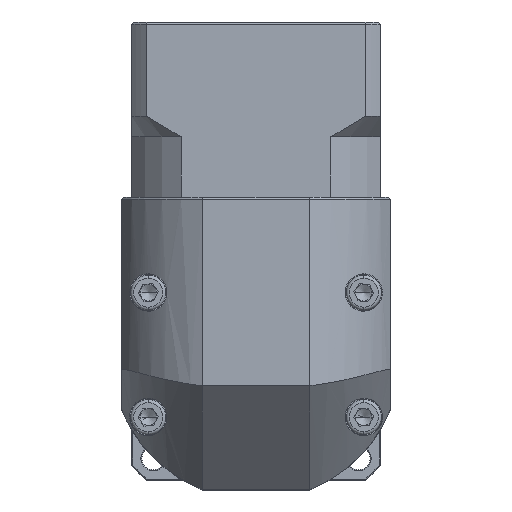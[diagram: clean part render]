
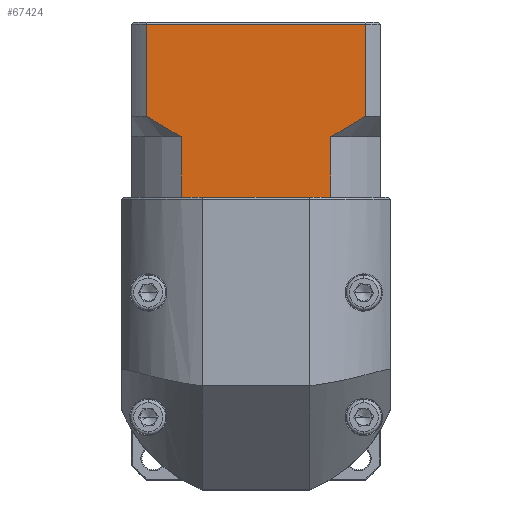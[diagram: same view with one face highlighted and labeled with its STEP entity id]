
A CAD part, top view. The second image highlights one B-rep face of the part: STEP entity #67424.
In plain terms, the highlighted planar face has unit normal (0, 0, 1).
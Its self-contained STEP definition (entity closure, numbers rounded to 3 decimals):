
#1100 = VECTOR ( 'NONE', #71806, 1000. ) ;
#2745 = ORIENTED_EDGE ( 'NONE', *, *, #60246, .T. ) ;
#4472 = VERTEX_POINT ( 'NONE', #14147 ) ;
#5237 = LINE ( 'NONE', #32211, #130261 ) ;
#6449 = ORIENTED_EDGE ( 'NONE', *, *, #79901, .F. ) ;
#7562 = CARTESIAN_POINT ( 'NONE',  ( -68.781, 107.694, 66.299 ) ) ;
#11675 = ORIENTED_EDGE ( 'NONE', *, *, #66327, .T. ) ;
#12315 = CARTESIAN_POINT ( 'NONE',  ( -31.274, 106.946, 66.299 ) ) ;
#13001 = DIRECTION ( 'NONE',  ( 0., 1., 0. ) ) ;
#13379 = LINE ( 'NONE', #98526, #127177 ) ;
#14147 = CARTESIAN_POINT ( 'NONE',  ( -31.274, 92.446, 66.299 ) ) ;
#15767 = CARTESIAN_POINT ( 'NONE',  ( -79.302, 134.646, 66.299 ) ) ;
#16076 = CARTESIAN_POINT ( 'NONE',  ( -75.759, 111.946, 66.299 ) ) ;
#16746 = ORIENTED_EDGE ( 'NONE', *, *, #109594, .F. ) ;
#18931 = LINE ( 'NONE', #54514, #38139 ) ;
#20796 = ORIENTED_EDGE ( 'NONE', *, *, #116781, .T. ) ;
#20812 = ORIENTED_EDGE ( 'NONE', *, *, #75219, .F. ) ;
#21961 = CARTESIAN_POINT ( 'NONE',  ( -67.329, 106.946, 66.299 ) ) ;
#23537 = DIRECTION ( 'NONE',  ( 0., -1., 0. ) ) ;
#23629 = LINE ( 'NONE', #124611, #129437 ) ;
#25657 = CARTESIAN_POINT ( 'NONE',  ( -22.844, 111.946, 66.299 ) ) ;
#27631 = DIRECTION ( 'NONE',  ( 1., 0., 0. ) ) ;
#27862 = CARTESIAN_POINT ( 'NONE',  ( -75.759, 134.146, 66.299 ) ) ;
#28110 = CARTESIAN_POINT ( 'NONE',  ( -70.213, 108.498, 66.299 ) ) ;
#32211 = CARTESIAN_POINT ( 'NONE',  ( -67.329, 106.946, 66.299 ) ) ;
#33005 = EDGE_LOOP ( 'NONE', ( #16746, #58472, #123543, #20796, #20812, #11675, #53881, #2745, #6449, #113412 ) ) ;
#35422 = DIRECTION ( 'NONE',  ( 0., 0., -1. ) ) ;
#36315 = CARTESIAN_POINT ( 'NONE',  ( -25.587, 110.171, 66.299 ) ) ;
#37522 = FACE_OUTER_BOUND ( 'NONE', #33005, .T. ) ;
#38139 = VECTOR ( 'NONE', #23537, 1000. ) ;
#39704 = CARTESIAN_POINT ( 'NONE',  ( -67.329, 106.946, 66.299 ) ) ;
#42693 = CARTESIAN_POINT ( 'NONE',  ( -66.338, 92.446, 66.299 ) ) ;
#43077 = DIRECTION ( 'NONE',  ( 1., 0., 0. ) ) ;
#47561 = LINE ( 'NONE', #51134, #1100 ) ;
#49654 = CARTESIAN_POINT ( 'NONE',  ( -75.759, 106.946, 66.299 ) ) ;
#49660 = B_SPLINE_CURVE_WITH_KNOTS ( 'NONE', 3,
 ( #16076, #120895, #59550, #28110, #7562, #39704 ),
 .UNSPECIFIED., .F., .F.,
 ( 4, 2, 4 ),
 ( 0.052, 0.057, 0.062 ),
 .UNSPECIFIED. ) ;
#51134 = CARTESIAN_POINT ( 'NONE',  ( -79.302, 134.146, 66.299 ) ) ;
#53881 = ORIENTED_EDGE ( 'NONE', *, *, #128111, .T. ) ;
#54514 = CARTESIAN_POINT ( 'NONE',  ( -22.844, 106.946, 66.299 ) ) ;
#55708 = PLANE ( 'NONE',  #113885 ) ;
#56158 = CARTESIAN_POINT ( 'NONE',  ( -28.392, 108.497, 66.299 ) ) ;
#57060 = EDGE_CURVE ( 'NONE', #91479, #73229, #118982, .T. ) ;
#57719 = VERTEX_POINT ( 'NONE', #12315 ) ;
#58472 = ORIENTED_EDGE ( 'NONE', *, *, #125173, .T. ) ;
#59550 = CARTESIAN_POINT ( 'NONE',  ( -73.021, 110.173, 66.299 ) ) ;
#60246 = EDGE_CURVE ( 'NONE', #106165, #4472, #23629, .T. ) ;
#60868 = CARTESIAN_POINT ( 'NONE',  ( -75.759, 111.946, 66.299 ) ) ;
#61252 = LINE ( 'NONE', #126145, #120453 ) ;
#64515 = VECTOR ( 'NONE', #102130, 1000. ) ;
#65044 = CARTESIAN_POINT ( 'NONE',  ( -79.302, 92.446, 66.299 ) ) ;
#66327 = EDGE_CURVE ( 'NONE', #85146, #110118, #13379, .T. ) ;
#67424 = ADVANCED_FACE ( 'NONE', ( #37522 ), #55708, .F. ) ;
#71806 = DIRECTION ( 'NONE',  ( -1., 0., 0. ) ) ;
#73229 = VERTEX_POINT ( 'NONE', #27862 ) ;
#74726 = DIRECTION ( 'NONE',  ( 0., -1., 0. ) ) ;
#75219 = EDGE_CURVE ( 'NONE', #85146, #112185, #5237, .T. ) ;
#78646 = CARTESIAN_POINT ( 'NONE',  ( -67.329, 92.446, 66.299 ) ) ;
#79901 = EDGE_CURVE ( 'NONE', #57719, #4472, #61252, .T. ) ;
#85146 = VERTEX_POINT ( 'NONE', #78646 ) ;
#85819 = CARTESIAN_POINT ( 'NONE',  ( -31.274, 106.946, 66.299 ) ) ;
#87148 = CARTESIAN_POINT ( 'NONE',  ( -24.207, 111.045, 66.299 ) ) ;
#89883 = CARTESIAN_POINT ( 'NONE',  ( -22.844, 111.946, 66.299 ) ) ;
#91479 = VERTEX_POINT ( 'NONE', #60868 ) ;
#93816 = EDGE_CURVE ( 'NONE', #57719, #126257, #95123, .T. ) ;
#94730 = VECTOR ( 'NONE', #128194, 1000. ) ;
#95123 = B_SPLINE_CURVE_WITH_KNOTS ( 'NONE', 3,
 ( #85819, #117568, #56158, #36315, #87148, #25657 ),
 .UNSPECIFIED., .F., .F.,
 ( 4, 2, 4 ),
 ( 0.1, 0.104, 0.109 ),
 .UNSPECIFIED. ) ;
#96521 = DIRECTION ( 'NONE',  ( 0., 1., 0. ) ) ;
#98526 = CARTESIAN_POINT ( 'NONE',  ( -79.302, 92.446, 66.299 ) ) ;
#102130 = DIRECTION ( 'NONE',  ( 0., 1., 0. ) ) ;
#106165 = VERTEX_POINT ( 'NONE', #128957 ) ;
#107519 = LINE ( 'NONE', #65044, #94730 ) ;
#108671 = CARTESIAN_POINT ( 'NONE',  ( -22.844, 134.146, 66.299 ) ) ;
#109594 = EDGE_CURVE ( 'NONE', #132592, #126257, #18931, .T. ) ;
#110118 = VERTEX_POINT ( 'NONE', #42693 ) ;
#112185 = VERTEX_POINT ( 'NONE', #21961 ) ;
#113412 = ORIENTED_EDGE ( 'NONE', *, *, #93816, .T. ) ;
#113885 = AXIS2_PLACEMENT_3D ( 'NONE', #15767, #35422, #96521 ) ;
#116781 = EDGE_CURVE ( 'NONE', #91479, #112185, #49660, .T. ) ;
#117568 = CARTESIAN_POINT ( 'NONE',  ( -29.817, 107.696, 66.299 ) ) ;
#118982 = LINE ( 'NONE', #49654, #64515 ) ;
#120453 = VECTOR ( 'NONE', #74726, 1000. ) ;
#120895 = CARTESIAN_POINT ( 'NONE',  ( -74.399, 111.047, 66.299 ) ) ;
#123543 = ORIENTED_EDGE ( 'NONE', *, *, #57060, .F. ) ;
#124611 = CARTESIAN_POINT ( 'NONE',  ( -79.302, 92.446, 66.299 ) ) ;
#125173 = EDGE_CURVE ( 'NONE', #132592, #73229, #47561, .T. ) ;
#126145 = CARTESIAN_POINT ( 'NONE',  ( -31.274, 106.946, 66.299 ) ) ;
#126257 = VERTEX_POINT ( 'NONE', #89883 ) ;
#127177 = VECTOR ( 'NONE', #27631, 1000. ) ;
#128111 = EDGE_CURVE ( 'NONE', #110118, #106165, #107519, .T. ) ;
#128194 = DIRECTION ( 'NONE',  ( 1., 0., 0. ) ) ;
#128957 = CARTESIAN_POINT ( 'NONE',  ( -32.265, 92.446, 66.299 ) ) ;
#129437 = VECTOR ( 'NONE', #43077, 1000. ) ;
#130261 = VECTOR ( 'NONE', #13001, 1000. ) ;
#132592 = VERTEX_POINT ( 'NONE', #108671 ) ;
